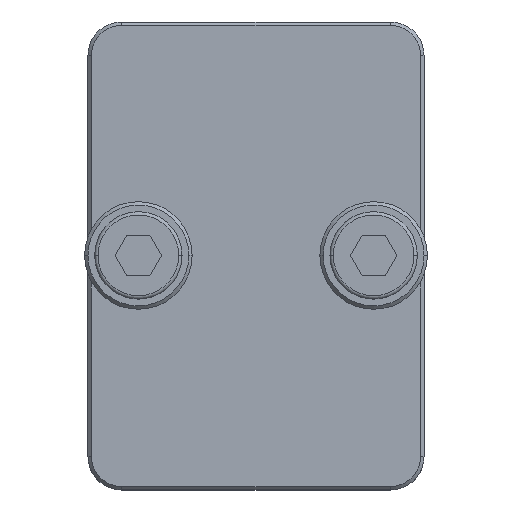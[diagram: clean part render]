
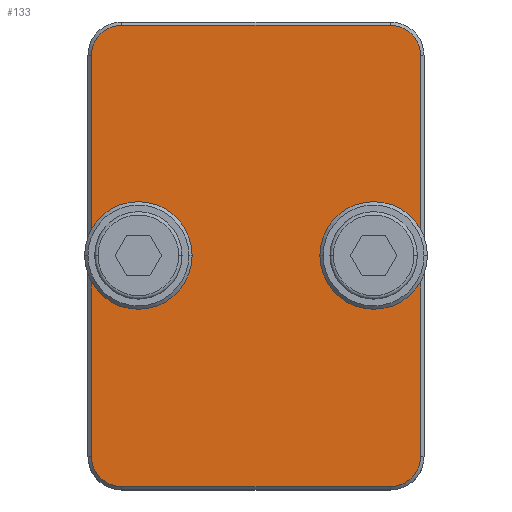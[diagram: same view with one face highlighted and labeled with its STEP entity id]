
A CAD part, top view. The second image highlights one B-rep face of the part: STEP entity #133.
In plain terms, the highlighted planar face has unit normal (0, 0, 1).
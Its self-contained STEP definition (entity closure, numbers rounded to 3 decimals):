
#9 = FACE_OUTER_BOUND ( 'NONE', #3795, .T. ) ;
#49 = DIRECTION ( 'NONE',  ( 0., 0., -1. ) ) ;
#91 = VERTEX_POINT ( 'NONE', #3607 ) ;
#94 = DIRECTION ( 'NONE',  ( -1., 0., 0. ) ) ;
#120 = ORIENTED_EDGE ( 'NONE', *, *, #3240, .T. ) ;
#124 = CARTESIAN_POINT ( 'NONE',  ( 20., 34.3, 0. ) ) ;
#133 = ADVANCED_FACE ( 'NONE', ( #3628, #4279, #9 ), #2991, .F. ) ;
#147 = CARTESIAN_POINT ( 'NONE',  ( 20., -34.3, 0. ) ) ;
#158 = CARTESIAN_POINT ( 'NONE',  ( 12.435, 0., 0. ) ) ;
#165 = VERTEX_POINT ( 'NONE', #2087 ) ;
#190 = EDGE_CURVE ( 'NONE', #3923, #3987, #3692, .T. ) ;
#222 = EDGE_CURVE ( 'NONE', #1622, #3374, #1092, .T. ) ;
#241 = DIRECTION ( 'NONE',  ( 0., 0., 1. ) ) ;
#271 = ORIENTED_EDGE ( 'NONE', *, *, #1573, .T. ) ;
#336 = CIRCLE ( 'NONE', #1452, 4.5 ) ;
#365 = EDGE_LOOP ( 'NONE', ( #1735, #4299 ) ) ;
#393 = CARTESIAN_POINT ( 'NONE',  ( -24.5, 29.8, 0. ) ) ;
#452 = LINE ( 'NONE', #1756, #2488 ) ;
#559 = CARTESIAN_POINT ( 'NONE',  ( -20., 34.3, 0. ) ) ;
#565 = CARTESIAN_POINT ( 'NONE',  ( 24.5, -29.8, 0. ) ) ;
#586 = AXIS2_PLACEMENT_3D ( 'NONE', #2049, #3386, #3891 ) ;
#769 = CARTESIAN_POINT ( 'NONE',  ( 24.5, 34.8, 0. ) ) ;
#770 = DIRECTION ( 'NONE',  ( -1., 0., 0. ) ) ;
#786 = VERTEX_POINT ( 'NONE', #559 ) ;
#801 = ORIENTED_EDGE ( 'NONE', *, *, #2644, .T. ) ;
#999 = CIRCLE ( 'NONE', #3295, 4.5 ) ;
#1008 = AXIS2_PLACEMENT_3D ( 'NONE', #1204, #2248, #3550 ) ;
#1066 = DIRECTION ( 'NONE',  ( 0., -1., 0. ) ) ;
#1080 = VECTOR ( 'NONE', #3566, 1000. ) ;
#1089 = CARTESIAN_POINT ( 'NONE',  ( -20., 29.8, 0. ) ) ;
#1092 = CIRCLE ( 'NONE', #2840, 5.065 ) ;
#1204 = CARTESIAN_POINT ( 'NONE',  ( 20., 29.8, 0. ) ) ;
#1207 = CARTESIAN_POINT ( 'NONE',  ( 24.5, 29.8, 0. ) ) ;
#1234 = VERTEX_POINT ( 'NONE', #1207 ) ;
#1242 = CARTESIAN_POINT ( 'NONE',  ( -12.435, 0., 0. ) ) ;
#1244 = CARTESIAN_POINT ( 'NONE',  ( -25., -34.3, 0. ) ) ;
#1270 = ORIENTED_EDGE ( 'NONE', *, *, #2925, .T. ) ;
#1274 = CIRCLE ( 'NONE', #3789, 5.065 ) ;
#1440 = CIRCLE ( 'NONE', #4297, 5.065 ) ;
#1449 = EDGE_CURVE ( 'NONE', #3241, #1234, #1736, .T. ) ;
#1452 = AXIS2_PLACEMENT_3D ( 'NONE', #4222, #241, #1533 ) ;
#1533 = DIRECTION ( 'NONE',  ( -1., 0., 0. ) ) ;
#1573 = EDGE_CURVE ( 'NONE', #91, #2249, #4244, .T. ) ;
#1606 = ORIENTED_EDGE ( 'NONE', *, *, #2409, .T. ) ;
#1622 = VERTEX_POINT ( 'NONE', #158 ) ;
#1679 = DIRECTION ( 'NONE',  ( -1., 0., 0. ) ) ;
#1699 = DIRECTION ( 'NONE',  ( 0., 0., -1. ) ) ;
#1735 = ORIENTED_EDGE ( 'NONE', *, *, #222, .T. ) ;
#1736 = LINE ( 'NONE', #769, #2051 ) ;
#1756 = CARTESIAN_POINT ( 'NONE',  ( -25., 34.3, 0. ) ) ;
#1841 = CIRCLE ( 'NONE', #586, 5.065 ) ;
#1883 = DIRECTION ( 'NONE',  ( 0., 0., 1. ) ) ;
#1979 = CARTESIAN_POINT ( 'NONE',  ( -25., 34.8, 0. ) ) ;
#2049 = CARTESIAN_POINT ( 'NONE',  ( -17.5, 0., 0. ) ) ;
#2051 = VECTOR ( 'NONE', #3810, 1000. ) ;
#2087 = CARTESIAN_POINT ( 'NONE',  ( -22.565, 0., 0. ) ) ;
#2112 = CARTESIAN_POINT ( 'NONE',  ( -17.5, 0., 0. ) ) ;
#2244 = EDGE_CURVE ( 'NONE', #3374, #1622, #1440, .T. ) ;
#2248 = DIRECTION ( 'NONE',  ( 0., 0., 1. ) ) ;
#2249 = VERTEX_POINT ( 'NONE', #147 ) ;
#2307 = ORIENTED_EDGE ( 'NONE', *, *, #1449, .T. ) ;
#2409 = EDGE_CURVE ( 'NONE', #2249, #3241, #3821, .T. ) ;
#2445 = DIRECTION ( 'NONE',  ( 0., 0., -1. ) ) ;
#2452 = DIRECTION ( 'NONE',  ( 0., 0., -1. ) ) ;
#2488 = VECTOR ( 'NONE', #770, 1000. ) ;
#2644 = EDGE_CURVE ( 'NONE', #2667, #786, #452, .T. ) ;
#2647 = ORIENTED_EDGE ( 'NONE', *, *, #3496, .T. ) ;
#2666 = CARTESIAN_POINT ( 'NONE',  ( 22.565, 0., 0. ) ) ;
#2667 = VERTEX_POINT ( 'NONE', #124 ) ;
#2769 = CARTESIAN_POINT ( 'NONE',  ( -24.5, -29.8, 0. ) ) ;
#2824 = EDGE_CURVE ( 'NONE', #3987, #91, #336, .T. ) ;
#2831 = ORIENTED_EDGE ( 'NONE', *, *, #3468, .T. ) ;
#2840 = AXIS2_PLACEMENT_3D ( 'NONE', #3364, #2445, #3699 ) ;
#2886 = CIRCLE ( 'NONE', #1008, 4.5 ) ;
#2925 = EDGE_CURVE ( 'NONE', #1234, #2667, #2886, .T. ) ;
#2991 = PLANE ( 'NONE',  #3813 ) ;
#3072 = DIRECTION ( 'NONE',  ( -1., 0., 0. ) ) ;
#3201 = ORIENTED_EDGE ( 'NONE', *, *, #190, .T. ) ;
#3240 = EDGE_CURVE ( 'NONE', #3296, #165, #1841, .T. ) ;
#3241 = VERTEX_POINT ( 'NONE', #565 ) ;
#3295 = AXIS2_PLACEMENT_3D ( 'NONE', #1089, #3379, #94 ) ;
#3296 = VERTEX_POINT ( 'NONE', #1242 ) ;
#3364 = CARTESIAN_POINT ( 'NONE',  ( 17.5, 0., 0. ) ) ;
#3374 = VERTEX_POINT ( 'NONE', #2666 ) ;
#3379 = DIRECTION ( 'NONE',  ( 0., 0., 1. ) ) ;
#3386 = DIRECTION ( 'NONE',  ( 0., 0., -1. ) ) ;
#3468 = EDGE_CURVE ( 'NONE', #165, #3296, #1274, .T. ) ;
#3496 = EDGE_CURVE ( 'NONE', #786, #3923, #999, .T. ) ;
#3504 = CARTESIAN_POINT ( 'NONE',  ( 17.5, 0., 0. ) ) ;
#3550 = DIRECTION ( 'NONE',  ( -1., 0., 0. ) ) ;
#3566 = DIRECTION ( 'NONE',  ( 1., 0., 0. ) ) ;
#3571 = DIRECTION ( 'NONE',  ( -1., 0., 0. ) ) ;
#3599 = VECTOR ( 'NONE', #1066, 1000. ) ;
#3607 = CARTESIAN_POINT ( 'NONE',  ( -20., -34.3, 0. ) ) ;
#3628 = FACE_BOUND ( 'NONE', #4155, .T. ) ;
#3690 = DIRECTION ( 'NONE',  ( -1., 0., 0. ) ) ;
#3692 = LINE ( 'NONE', #3992, #3599 ) ;
#3699 = DIRECTION ( 'NONE',  ( -1., 0., 0. ) ) ;
#3789 = AXIS2_PLACEMENT_3D ( 'NONE', #2112, #1699, #3072 ) ;
#3795 = EDGE_LOOP ( 'NONE', ( #1606, #2307, #1270, #801, #2647, #3201, #4075, #271 ) ) ;
#3810 = DIRECTION ( 'NONE',  ( 0., 1., 0. ) ) ;
#3813 = AXIS2_PLACEMENT_3D ( 'NONE', #1979, #49, #1679 ) ;
#3821 = CIRCLE ( 'NONE', #3958, 4.5 ) ;
#3891 = DIRECTION ( 'NONE',  ( -1., 0., 0. ) ) ;
#3923 = VERTEX_POINT ( 'NONE', #393 ) ;
#3940 = CARTESIAN_POINT ( 'NONE',  ( 20., -29.8, 0. ) ) ;
#3958 = AXIS2_PLACEMENT_3D ( 'NONE', #3940, #1883, #3571 ) ;
#3987 = VERTEX_POINT ( 'NONE', #2769 ) ;
#3992 = CARTESIAN_POINT ( 'NONE',  ( -24.5, 34.8, 0. ) ) ;
#4075 = ORIENTED_EDGE ( 'NONE', *, *, #2824, .T. ) ;
#4155 = EDGE_LOOP ( 'NONE', ( #2831, #120 ) ) ;
#4222 = CARTESIAN_POINT ( 'NONE',  ( -20., -29.8, 0. ) ) ;
#4244 = LINE ( 'NONE', #1244, #1080 ) ;
#4279 = FACE_BOUND ( 'NONE', #365, .T. ) ;
#4297 = AXIS2_PLACEMENT_3D ( 'NONE', #3504, #2452, #3690 ) ;
#4299 = ORIENTED_EDGE ( 'NONE', *, *, #2244, .T. ) ;
